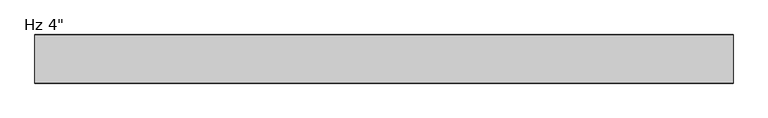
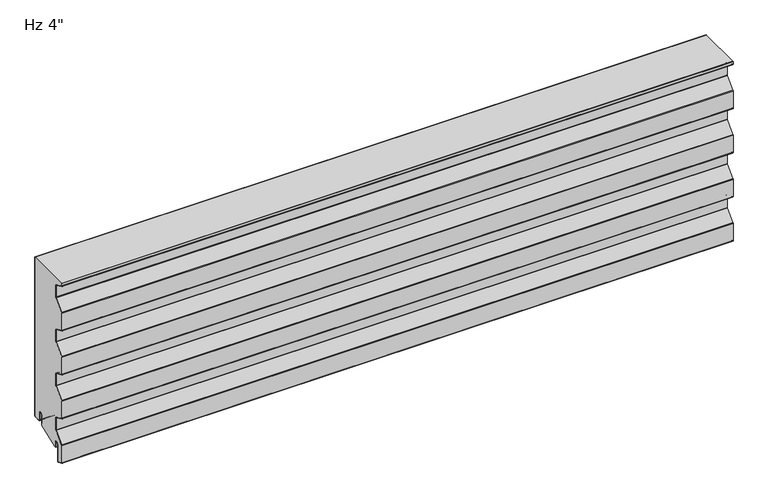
"""IFC4 building model written with IfcOpenShell, lengths in millimetres: plate geometry."""

from ifc_helpers import new_model, si_unit, point, frame, frame_2d, origin, place, context, project, spatial, polyline, circle_curve, trimmed, segment, composite_curve, outline, extrude, source, transform, mapped, element, save


def plate_e6cba630(model_context):
    return source(origin(), model_context, "Body", "SweptSolid", [
        extrude(outline(composite_curve([segment(polyline([(-26.4011912, 19.05), (-26.4011912, -3.1976612), (-74.633822, -23.01875), (-76.7886912, -23.01875), (-76.7886912, -11.90625)]), True, "CONTINUOUS"), segment(trimmed(circle_curve(frame_2d((-81.7574412, -11.90625)), 4.96875), [point((-76.7886912, -11.90625))], [point((-86.7261912, -11.90625))], True, "CARTESIAN"), True, "CONTINUOUS"), segment(polyline([(-86.7261912, -11.90625), (-86.7261912, -48.8194049)]), True, "CONTINUOUS"), segment(trimmed(circle_curve(frame_2d((-88.1074412, -48.8194049)), 1.38125), [point((-86.7261912, -48.8194049))], [point((-88.6666208, -50.0824052))], False, "CARTESIAN"), True, "CONTINUOUS"), segment(polyline([(-88.6666208, -50.0824052), (-99.7779296, -45.1629946)]), True, "CONTINUOUS"), segment(trimmed(circle_curve(frame_2d((-99.21875, -43.8999943)), 1.38125), [point((-99.7779296, -45.1629946))], [point((-100.6, -43.8999943))], False, "CARTESIAN"), True, "CONTINUOUS"), segment(polyline([(-100.6, -43.8999943), (-100.6, -5.0536946)]), True, "CONTINUOUS"), segment(trimmed(circle_curve(frame_2d((-98.5012, -5.0536946)), 2.0988), [point((-100.6, -5.0536946))], [point((-100.0092077, -3.5939431))], False, "CARTESIAN"), True, "CONTINUOUS"), segment(polyline([(-100.0092077, -3.5939431), (-79.8145567, 17.2682996)]), True, "CONTINUOUS"), segment(trimmed(circle_curve(frame_2d((-81.6737, 19.0679503)), 2.5875), [point((-79.8145567, 17.2682996))], [point((-79.0862, 19.0679503))], True, "CARTESIAN"), True, "CONTINUOUS"), segment(polyline([(-79.0862, 19.0679503), (-79.0862, 45.5917981)]), True, "CONTINUOUS"), segment(trimmed(circle_curve(frame_2d((-81.6737, 45.5917981)), 2.5875), [point((-79.0862, 45.5917981))], [point((-80.6261871, 47.9577806))], True, "CARTESIAN"), True, "CONTINUOUS"), segment(polyline([(-80.6261871, 47.9577806), (-99.7779296, 56.4370054)]), True, "CONTINUOUS"), segment(trimmed(circle_curve(frame_2d((-99.21875, 57.7000057)), 1.38125), [point((-99.7779296, 56.4370054))], [point((-100.6, 57.7000057))], False, "CARTESIAN"), True, "CONTINUOUS"), segment(polyline([(-100.6, 57.7000057), (-100.6, 96.8367131)]), True, "CONTINUOUS"), segment(trimmed(circle_curve(frame_2d((-99.21875, 96.8367131)), 1.38125), [point((-100.6, 96.8367131))], [point((-100.2111912, 97.7973962))], False, "CARTESIAN"), True, "CONTINUOUS"), segment(polyline([(-100.2111912, 97.7973962), (-79.8145567, 118.8682996)]), True, "CONTINUOUS"), segment(trimmed(circle_curve(frame_2d((-81.6737, 120.6679503)), 2.5875), [point((-79.8145567, 118.8682996))], [point((-79.0862, 120.6679503))], True, "CARTESIAN"), True, "CONTINUOUS"), segment(polyline([(-79.0862, 120.6679503), (-79.0862, 147.1917981)]), True, "CONTINUOUS"), segment(trimmed(circle_curve(frame_2d((-81.6737, 147.1917981)), 2.5875), [point((-79.0862, 147.1917981))], [point((-80.6261871, 149.5577806))], True, "CARTESIAN"), True, "CONTINUOUS"), segment(polyline([(-80.6261871, 149.5577806), (-99.7779296, 158.0370054)]), True, "CONTINUOUS"), segment(trimmed(circle_curve(frame_2d((-99.21875, 159.3000057)), 1.38125), [point((-99.7779296, 158.0370054))], [point((-100.6, 159.3000057))], False, "CARTESIAN"), True, "CONTINUOUS"), segment(polyline([(-100.6, 159.3000057), (-100.6, 198.4367131)]), True, "CONTINUOUS"), segment(trimmed(circle_curve(frame_2d((-99.21875, 198.4367131)), 1.38125), [point((-100.6, 198.4367131))], [point((-100.2111912, 199.3973962))], False, "CARTESIAN"), True, "CONTINUOUS"), segment(polyline([(-100.2111912, 199.3973962), (-79.8145567, 220.4682996)]), True, "CONTINUOUS"), segment(trimmed(circle_curve(frame_2d((-81.6737, 222.2679503)), 2.5875), [point((-79.8145567, 220.4682996))], [point((-79.0862, 222.2679503))], True, "CARTESIAN"), True, "CONTINUOUS"), segment(polyline([(-79.0862, 222.2679503), (-79.0862, 248.7917981)]), True, "CONTINUOUS"), segment(trimmed(circle_curve(frame_2d((-81.6737, 248.7917981)), 2.5875), [point((-79.0862, 248.7917981))], [point((-80.6261871, 251.1577806))], True, "CARTESIAN"), True, "CONTINUOUS"), segment(polyline([(-80.6261871, 251.1577806), (-99.7779296, 259.6370054)]), True, "CONTINUOUS"), segment(trimmed(circle_curve(frame_2d((-99.21875, 260.9000057)), 1.38125), [point((-99.7779296, 259.6370054))], [point((-100.6, 260.9000057))], False, "CARTESIAN"), True, "CONTINUOUS"), segment(polyline([(-100.6, 260.9000057), (-100.6, 300.0367131)]), True, "CONTINUOUS"), segment(trimmed(circle_curve(frame_2d((-99.21875, 300.0367131)), 1.38125), [point((-100.6, 300.0367131))], [point((-100.2111912, 300.9973962))], False, "CARTESIAN"), True, "CONTINUOUS"), segment(polyline([(-100.2111912, 300.9973962), (-79.8145567, 322.0682996)]), True, "CONTINUOUS"), segment(trimmed(circle_curve(frame_2d((-81.6737, 323.8679503)), 2.5875), [point((-79.8145567, 322.0682996))], [point((-79.0862, 323.8679503))], True, "CARTESIAN"), True, "CONTINUOUS"), segment(polyline([(-79.0862, 323.8679503), (-79.0862, 350.3917981)]), True, "CONTINUOUS"), segment(trimmed(circle_curve(frame_2d((-81.6737, 350.3917981)), 2.5875), [point((-79.0862, 350.3917981))], [point((-80.6261871, 352.7577806))], True, "CARTESIAN"), True, "CONTINUOUS"), segment(polyline([(-80.6261871, 352.7577806), (-99.7779296, 361.2370054)]), True, "CONTINUOUS"), segment(trimmed(circle_curve(frame_2d((-99.21875, 362.5000057)), 1.38125), [point((-99.7779296, 361.2370054))], [point((-100.6, 362.5000057))], False, "CARTESIAN"), True, "CONTINUOUS"), segment(polyline([(-100.6, 362.5000057), (-100.6, 368.0), (-1.0011912, 368.0), (-1.0011912, 3.175)]), True, "CONTINUOUS"), segment(trimmed(circle_curve(frame_2d((-2.3824412, 3.175)), 1.38125), [point((-1.0011912, 3.175))], [point((-2.3824412, 1.79375))], False, "CARTESIAN"), True, "CONTINUOUS"), segment(polyline([(-2.3824412, 1.79375), (-15.0824412, 1.79375)]), True, "CONTINUOUS"), segment(trimmed(circle_curve(frame_2d((-15.0824412, 3.175)), 1.38125), [point((-15.0824412, 1.79375))], [point((-16.4636912, 3.175))], False, "CARTESIAN"), True, "CONTINUOUS"), segment(polyline([(-16.4636912, 3.175), (-16.4636912, 19.05)]), True, "CONTINUOUS"), segment(trimmed(circle_curve(frame_2d((-21.4324412, 19.05)), 4.96875), [point((-16.4636912, 19.05))], [point((-26.4011912, 19.05))], True, "CARTESIAN"), True, "CONTINUOUS")], self_intersect=False)), frame((-730.0, 0.0, 0.0), z_axis=(1.0, 0.0, 0.0), x_axis=(0.0, 1.0, 0.0)), (0.0, 0.0, 1.0), 1460.0),
        extrude(outline(composite_curve([segment(polyline([(-25.4, 0.79375), (-26.4, 0.79375), (-26.4, 19.05)]), True, "CONTINUOUS"), segment(trimmed(circle_curve(frame_2d((-21.43125, 19.05)), 4.96875), [point((-26.4, 19.05))], [point((-16.4625, 19.05))], False, "CARTESIAN"), True, "CONTINUOUS"), segment(polyline([(-16.4625, 19.05), (-16.4625, 3.175)]), True, "CONTINUOUS"), segment(trimmed(circle_curve(frame_2d((-15.08125, 3.175)), 1.38125), [point((-16.4625, 3.175))], [point((-15.08125, 1.79375))], True, "CARTESIAN"), True, "CONTINUOUS"), segment(polyline([(-15.08125, 1.79375), (-2.38125, 1.79375)]), True, "CONTINUOUS"), segment(trimmed(circle_curve(frame_2d((-2.38125, 3.175)), 1.38125), [point((-2.38125, 1.79375))], [point((-1.0, 3.175))], True, "CARTESIAN"), True, "CONTINUOUS"), segment(polyline([(-1.0, 3.175), (-1.0, 368.0), (0.0, 368.0), (0.0, 3.175)]), True, "CONTINUOUS"), segment(trimmed(circle_curve(frame_2d((-2.38125, 3.175)), 2.38125), [point((0.0, 3.175))], [point((-2.38125, 0.79375))], False, "CARTESIAN"), True, "CONTINUOUS"), segment(polyline([(-2.38125, 0.79375), (-15.08125, 0.79375)]), True, "CONTINUOUS"), segment(trimmed(circle_curve(frame_2d((-15.08125, 3.175)), 2.38125), [point((-15.08125, 0.79375))], [point((-17.4625, 3.175))], False, "CARTESIAN"), True, "CONTINUOUS"), segment(polyline([(-17.4625, 3.175), (-17.4625, 19.05)]), True, "CONTINUOUS"), segment(trimmed(circle_curve(frame_2d((-21.43125, 19.05)), 3.96875), [point((-17.4625, 19.05))], [point((-25.4, 19.05))], True, "CARTESIAN"), True, "CONTINUOUS"), segment(polyline([(-25.4, 19.05), (-25.4, 0.79375)]), True, "CONTINUOUS")], self_intersect=False)), frame((-730.0, 0.0, 0.0), z_axis=(1.0, 0.0, 0.0), x_axis=(0.0, 1.0, 0.0)), (0.0, 0.0, 1.0), 1460.0),
        extrude(outline(composite_curve([segment(polyline([(-85.7261912, -11.90625), (-85.7261912, -48.8194049)]), True, "CONTINUOUS"), segment(trimmed(circle_curve(frame_2d((-88.1074412, -48.8194049)), 2.38125), [point((-85.7261912, -48.8194049))], [point((-89.0714567, -50.9967946))], False, "CARTESIAN"), True, "CONTINUOUS"), segment(polyline([(-89.0714567, -50.9967946), (-100.1827655, -46.0773839)]), True, "CONTINUOUS"), segment(trimmed(circle_curve(frame_2d((-99.21875, -43.8999943)), 2.38125), [point((-100.1827655, -46.0773839))], [point((-101.6, -43.8999943))], False, "CARTESIAN"), True, "CONTINUOUS"), segment(polyline([(-101.6, -43.8999943), (-101.6, -5.0536946)]), True, "CONTINUOUS"), segment(trimmed(circle_curve(frame_2d((-98.5012, -5.0536946)), 3.0988), [point((-101.6, -5.0536946))], [point((-100.7277172, -2.8984259))], False, "CARTESIAN"), True, "CONTINUOUS"), segment(polyline([(-100.7277172, -2.8984259), (-80.5330662, 17.9638168)]), True, "CONTINUOUS"), segment(trimmed(circle_curve(frame_2d((-81.6737, 19.0679503)), 1.5875), [point((-80.5330662, 17.9638168))], [point((-80.0862, 19.0679503))], True, "CARTESIAN"), True, "CONTINUOUS"), segment(polyline([(-80.0862, 19.0679503), (-80.0862, 45.5917981)]), True, "CONTINUOUS"), segment(trimmed(circle_curve(frame_2d((-81.6737, 45.5917981)), 1.5875), [point((-80.0862, 45.5917981))], [point((-81.031023, 47.0433912))], True, "CARTESIAN"), True, "CONTINUOUS"), segment(polyline([(-81.031023, 47.0433912), (-100.1827655, 55.5226161)]), True, "CONTINUOUS"), segment(trimmed(circle_curve(frame_2d((-99.21875, 57.7000057)), 2.38125), [point((-100.1827655, 55.5226161))], [point((-101.6, 57.7000057))], False, "CARTESIAN"), True, "CONTINUOUS"), segment(polyline([(-101.6, 57.7000057), (-101.6, 96.8367131)]), True, "CONTINUOUS"), segment(trimmed(circle_curve(frame_2d((-99.21875, 96.8367131)), 2.38125), [point((-101.6, 96.8367131))], [point((-100.9297007, 98.4929134))], False, "CARTESIAN"), True, "CONTINUOUS"), segment(polyline([(-100.9297007, 98.4929134), (-80.5330662, 119.5638168)]), True, "CONTINUOUS"), segment(trimmed(circle_curve(frame_2d((-81.6737, 120.6679503)), 1.5875), [point((-80.5330662, 119.5638168))], [point((-80.0862, 120.6679503))], True, "CARTESIAN"), True, "CONTINUOUS"), segment(polyline([(-80.0862, 120.6679503), (-80.0862, 147.1917981)]), True, "CONTINUOUS"), segment(trimmed(circle_curve(frame_2d((-81.6737, 147.1917981)), 1.5875), [point((-80.0862, 147.1917981))], [point((-81.031023, 148.6433912))], True, "CARTESIAN"), True, "CONTINUOUS"), segment(polyline([(-81.031023, 148.6433912), (-100.1827655, 157.1226161)]), True, "CONTINUOUS"), segment(trimmed(circle_curve(frame_2d((-99.21875, 159.3000057)), 2.38125), [point((-100.1827655, 157.1226161))], [point((-101.6, 159.3000057))], False, "CARTESIAN"), True, "CONTINUOUS"), segment(polyline([(-101.6, 159.3000057), (-101.6, 198.4367131)]), True, "CONTINUOUS"), segment(trimmed(circle_curve(frame_2d((-99.21875, 198.4367131)), 2.38125), [point((-101.6, 198.4367131))], [point((-100.9297007, 200.0929134))], False, "CARTESIAN"), True, "CONTINUOUS"), segment(polyline([(-100.9297007, 200.0929134), (-80.5330662, 221.1638168)]), True, "CONTINUOUS"), segment(trimmed(circle_curve(frame_2d((-81.6737, 222.2679503)), 1.5875), [point((-80.5330662, 221.1638168))], [point((-80.0862, 222.2679503))], True, "CARTESIAN"), True, "CONTINUOUS"), segment(polyline([(-80.0862, 222.2679503), (-80.0862, 248.7917981)]), True, "CONTINUOUS"), segment(trimmed(circle_curve(frame_2d((-81.6737, 248.7917981)), 1.5875), [point((-80.0862, 248.7917981))], [point((-81.031023, 250.2433912))], True, "CARTESIAN"), True, "CONTINUOUS"), segment(polyline([(-81.031023, 250.2433912), (-100.1827655, 258.7226161)]), True, "CONTINUOUS"), segment(trimmed(circle_curve(frame_2d((-99.21875, 260.9000057)), 2.38125), [point((-100.1827655, 258.7226161))], [point((-101.6, 260.9000057))], False, "CARTESIAN"), True, "CONTINUOUS"), segment(polyline([(-101.6, 260.9000057), (-101.6, 300.0367131)]), True, "CONTINUOUS"), segment(trimmed(circle_curve(frame_2d((-99.21875, 300.0367131)), 2.38125), [point((-101.6, 300.0367131))], [point((-100.9297007, 301.6929134))], False, "CARTESIAN"), True, "CONTINUOUS"), segment(polyline([(-100.9297007, 301.6929134), (-80.5330662, 322.7638168)]), True, "CONTINUOUS"), segment(trimmed(circle_curve(frame_2d((-81.6737, 323.8679503)), 1.5875), [point((-80.5330662, 322.7638168))], [point((-80.0862, 323.8679503))], True, "CARTESIAN"), True, "CONTINUOUS"), segment(polyline([(-80.0862, 323.8679503), (-80.0862, 350.3917981)]), True, "CONTINUOUS"), segment(trimmed(circle_curve(frame_2d((-81.6737, 350.3917981)), 1.5875), [point((-80.0862, 350.3917981))], [point((-81.031023, 351.8433912))], True, "CARTESIAN"), True, "CONTINUOUS"), segment(polyline([(-81.031023, 351.8433912), (-100.1827655, 360.3226161)]), True, "CONTINUOUS"), segment(trimmed(circle_curve(frame_2d((-99.21875, 362.5000057)), 2.38125), [point((-100.1827655, 360.3226161))], [point((-101.6, 362.5000057))], False, "CARTESIAN"), True, "CONTINUOUS"), segment(polyline([(-101.6, 362.5000057), (-101.6, 368.0), (-100.6, 368.0), (-100.6, 362.5000057)]), True, "CONTINUOUS"), segment(trimmed(circle_curve(frame_2d((-99.21875, 362.5000057)), 1.38125), [point((-100.6, 362.5000057))], [point((-99.7779296, 361.2370054))], True, "CARTESIAN"), True, "CONTINUOUS"), segment(polyline([(-99.7779296, 361.2370054), (-80.6261871, 352.7577806)]), True, "CONTINUOUS"), segment(trimmed(circle_curve(frame_2d((-81.6737, 350.3917981)), 2.5875), [point((-80.6261871, 352.7577806))], [point((-79.0862, 350.3917981))], False, "CARTESIAN"), True, "CONTINUOUS"), segment(polyline([(-79.0862, 350.3917981), (-79.0862, 323.8679503)]), True, "CONTINUOUS"), segment(trimmed(circle_curve(frame_2d((-81.6737, 323.8679503)), 2.5875), [point((-79.0862, 323.8679503))], [point((-79.8145567, 322.0682996))], False, "CARTESIAN"), True, "CONTINUOUS"), segment(polyline([(-79.8145567, 322.0682996), (-100.2111912, 300.9973962)]), True, "CONTINUOUS"), segment(trimmed(circle_curve(frame_2d((-99.21875, 300.0367131)), 1.38125), [point((-100.2111912, 300.9973962))], [point((-100.6, 300.0367131))], True, "CARTESIAN"), True, "CONTINUOUS"), segment(polyline([(-100.6, 300.0367131), (-100.6, 260.9000057)]), True, "CONTINUOUS"), segment(trimmed(circle_curve(frame_2d((-99.21875, 260.9000057)), 1.38125), [point((-100.6, 260.9000057))], [point((-99.7779296, 259.6370054))], True, "CARTESIAN"), True, "CONTINUOUS"), segment(polyline([(-99.7779296, 259.6370054), (-80.6261871, 251.1577806)]), True, "CONTINUOUS"), segment(trimmed(circle_curve(frame_2d((-81.6737, 248.7917981)), 2.5875), [point((-80.6261871, 251.1577806))], [point((-79.0862, 248.7917981))], False, "CARTESIAN"), True, "CONTINUOUS"), segment(polyline([(-79.0862, 248.7917981), (-79.0862, 222.2679503)]), True, "CONTINUOUS"), segment(trimmed(circle_curve(frame_2d((-81.6737, 222.2679503)), 2.5875), [point((-79.0862, 222.2679503))], [point((-79.8145567, 220.4682996))], False, "CARTESIAN"), True, "CONTINUOUS"), segment(polyline([(-79.8145567, 220.4682996), (-100.2111912, 199.3973962)]), True, "CONTINUOUS"), segment(trimmed(circle_curve(frame_2d((-99.21875, 198.4367131)), 1.38125), [point((-100.2111912, 199.3973962))], [point((-100.6, 198.4367131))], True, "CARTESIAN"), True, "CONTINUOUS"), segment(polyline([(-100.6, 198.4367131), (-100.6, 159.3000057)]), True, "CONTINUOUS"), segment(trimmed(circle_curve(frame_2d((-99.21875, 159.3000057)), 1.38125), [point((-100.6, 159.3000057))], [point((-99.7779296, 158.0370054))], True, "CARTESIAN"), True, "CONTINUOUS"), segment(polyline([(-99.7779296, 158.0370054), (-80.6261871, 149.5577806)]), True, "CONTINUOUS"), segment(trimmed(circle_curve(frame_2d((-81.6737, 147.1917981)), 2.5875), [point((-80.6261871, 149.5577806))], [point((-79.0862, 147.1917981))], False, "CARTESIAN"), True, "CONTINUOUS"), segment(polyline([(-79.0862, 147.1917981), (-79.0862, 120.6679503)]), True, "CONTINUOUS"), segment(trimmed(circle_curve(frame_2d((-81.6737, 120.6679503)), 2.5875), [point((-79.0862, 120.6679503))], [point((-79.8145567, 118.8682996))], False, "CARTESIAN"), True, "CONTINUOUS"), segment(polyline([(-79.8145567, 118.8682996), (-100.2111912, 97.7973962)]), True, "CONTINUOUS"), segment(trimmed(circle_curve(frame_2d((-99.21875, 96.8367131)), 1.38125), [point((-100.2111912, 97.7973962))], [point((-100.6, 96.8367131))], True, "CARTESIAN"), True, "CONTINUOUS"), segment(polyline([(-100.6, 96.8367131), (-100.6, 57.7000057)]), True, "CONTINUOUS"), segment(trimmed(circle_curve(frame_2d((-99.21875, 57.7000057)), 1.38125), [point((-100.6, 57.7000057))], [point((-99.7779296, 56.4370054))], True, "CARTESIAN"), True, "CONTINUOUS"), segment(polyline([(-99.7779296, 56.4370054), (-80.6261871, 47.9577806)]), True, "CONTINUOUS"), segment(trimmed(circle_curve(frame_2d((-81.6737, 45.5917981)), 2.5875), [point((-80.6261871, 47.9577806))], [point((-79.0862, 45.5917981))], False, "CARTESIAN"), True, "CONTINUOUS"), segment(polyline([(-79.0862, 45.5917981), (-79.0862, 19.0679503)]), True, "CONTINUOUS"), segment(trimmed(circle_curve(frame_2d((-81.6737, 19.0679503)), 2.5875), [point((-79.0862, 19.0679503))], [point((-79.8145567, 17.2682996))], False, "CARTESIAN"), True, "CONTINUOUS"), segment(polyline([(-79.8145567, 17.2682996), (-100.0092077, -3.5939431)]), True, "CONTINUOUS"), segment(trimmed(circle_curve(frame_2d((-98.5012, -5.0536946)), 2.0988), [point((-100.0092077, -3.5939431))], [point((-100.6, -5.0536946))], True, "CARTESIAN"), True, "CONTINUOUS"), segment(polyline([(-100.6, -5.0536946), (-100.6, -43.8999943)]), True, "CONTINUOUS"), segment(trimmed(circle_curve(frame_2d((-99.21875, -43.8999943)), 1.38125), [point((-100.6, -43.8999943))], [point((-99.7779296, -45.1629946))], True, "CARTESIAN"), True, "CONTINUOUS"), segment(polyline([(-99.7779296, -45.1629946), (-88.6666208, -50.0824052)]), True, "CONTINUOUS"), segment(trimmed(circle_curve(frame_2d((-88.1074412, -48.8194049)), 1.38125), [point((-88.6666208, -50.0824052))], [point((-86.7261912, -48.8194049))], True, "CARTESIAN"), True, "CONTINUOUS"), segment(polyline([(-86.7261912, -48.8194049), (-86.7261912, -11.90625)]), True, "CONTINUOUS"), segment(trimmed(circle_curve(frame_2d((-81.7574412, -11.90625)), 4.96875), [point((-86.7261912, -11.90625))], [point((-76.7886912, -11.90625))], False, "CARTESIAN"), True, "CONTINUOUS"), segment(polyline([(-76.7886912, -11.90625), (-76.7886912, -23.01875), (-77.7886912, -23.01875), (-77.7886912, -11.90625)]), True, "CONTINUOUS"), segment(trimmed(circle_curve(frame_2d((-81.7574412, -11.90625)), 3.96875), [point((-77.7886912, -11.90625))], [point((-85.7261912, -11.90625))], True, "CARTESIAN"), True, "CONTINUOUS")], self_intersect=False)), frame((-730.0, 0.0, 0.0), z_axis=(1.0, 0.0, 0.0), x_axis=(0.0, 1.0, 0.0)), (0.0, 0.0, 1.0), 1460.0),
    ])


if __name__ == "__main__":
    model = new_model("IFC4")
    model_context = context("Model", 3, world=origin())
    ifc_project = project(units=[si_unit("LENGTHUNIT", "METRE", prefix="MILLI")], contexts=[model_context])
    site = spatial("IfcSite", under=ifc_project)
    building = spatial("IfcBuilding", under=site)
    placement = place(None, origin())
    plate_shape = plate_e6cba630(model_context)
    element("IfcPlate", 1, ObjectType="KIP-20-DWR-R19-CP-Hz-S : Hz 4\"", at=placement, inside=building, context=model_context, shape_type="MappedRepresentation", body=[
        mapped(plate_shape, transform((0.0, 0.0, 0.0), x_axis=(1.0, 0.0, 0.0), y_axis=(0.0, 1.0, 0.0), z_axis=(0.0, 0.0, 1.0))),
    ])
    save(model, "model.ifc")
